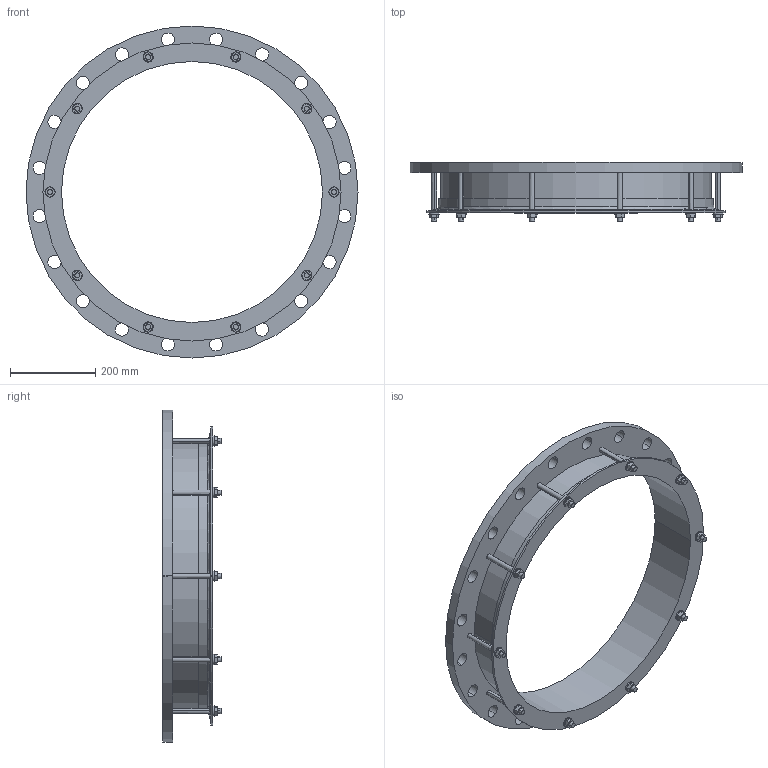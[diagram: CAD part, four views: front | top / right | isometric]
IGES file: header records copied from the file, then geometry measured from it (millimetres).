
Start section:  PTC IGES file: 610x600pn10.igs
Global section: file name: 610x600pn10.igs; native system: Creo Parametric by PTC Inc.; preprocessor: 2016130; author: mfairey; organization: Unknown; date: 20190116.135512; units: millimetre
Bounding box: 780 x 137.45 x 780 mm (x, y, z)
Surface area: 1018349.8 mm2 (no closed solid volume)
Topology: 0 solids, 0 shells, 208 faces, 1096 edges, 1096 vertices
Faces by surface type: revolution 114, bspline 94
